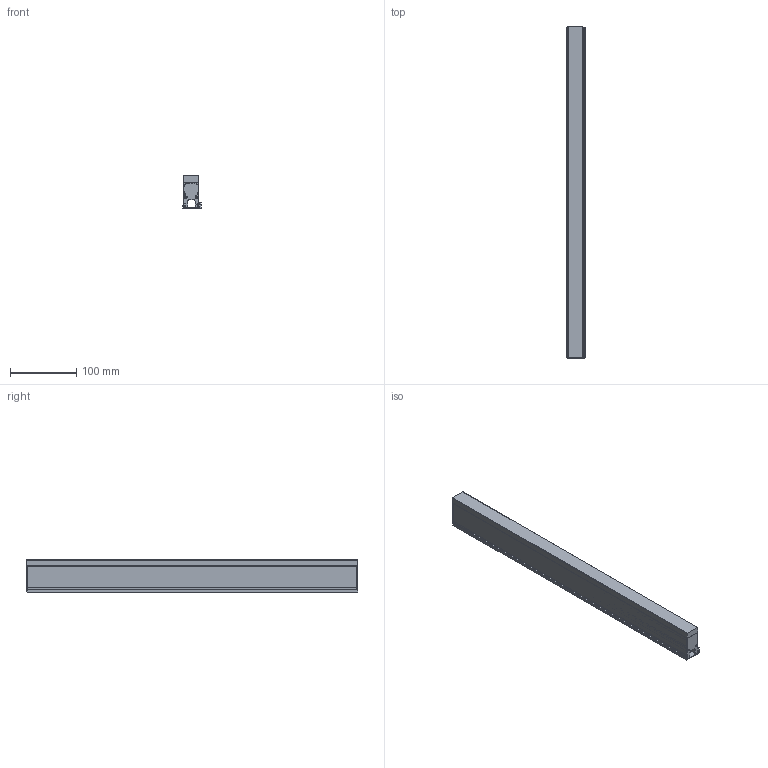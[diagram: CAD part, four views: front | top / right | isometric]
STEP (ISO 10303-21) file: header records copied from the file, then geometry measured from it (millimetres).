
FILE_DESCRIPTION(/* description */ (''),/* implementation_level */ '2;1');
FILE_NAME(/* name */ 'Opal 500.step',/* time_stamp */ '2026-06-04T18:35:30+03:00',/* author */ (''),/* organization */ (''),/* preprocessor_version */ 'ST-DEVELOPER v20.1',/* originating_system */ 'Autodesk Translation Framework v15.8.0.0',/* authorisation */ '');
FILE_SCHEMA (('AUTOMOTIVE_DESIGN { 1 0 10303 214 3 1 1 }'));
Length unit declared in the file: millimetre
Products named in the file (1): Opal  500
Bounding box: 27.36 x 500 x 48.83 mm (x, y, z)
Volume: 212699.5 mm3; surface area: 212840.4 mm2
Topology: 11 solids, 11 shells, 222 faces, 588 edges, 392 vertices
Faces by surface type: plane 163, cylinder 59
Full cylindrical faces by diameter (mm): 2.899 x4, 3 x4, 4.19 x2
Entity records: 6897 total; most frequent: CARTESIAN_POINT 1203, ORIENTED_EDGE 1176, DIRECTION 1152, EDGE_CURVE 588, LINE 470, VECTOR 470, VERTEX_POINT 392, AXIS2_PLACEMENT_3D 341
